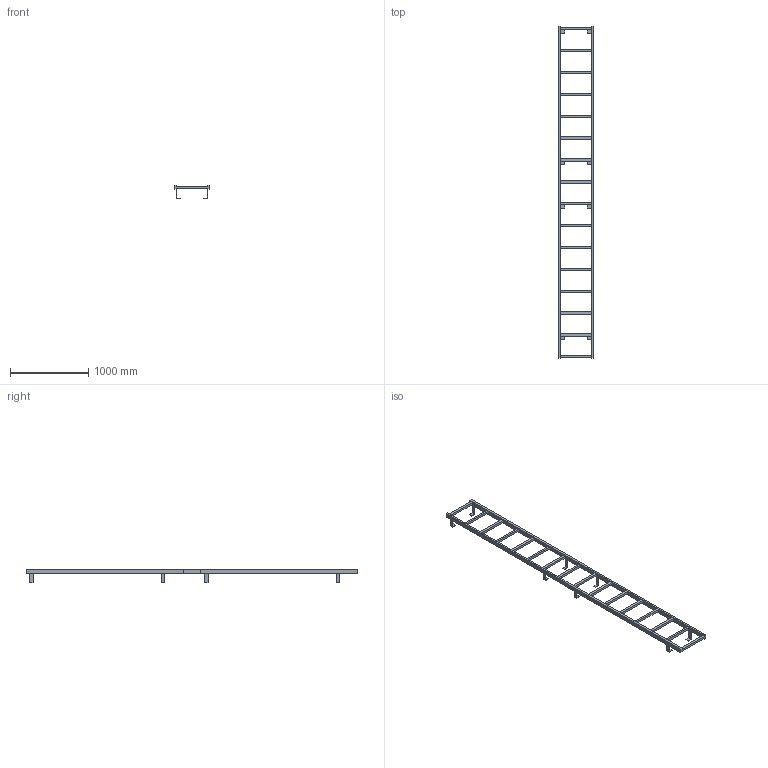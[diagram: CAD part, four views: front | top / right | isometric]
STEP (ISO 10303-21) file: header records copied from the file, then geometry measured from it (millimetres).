
FILE_DESCRIPTION((''),'2;1');
FILE_NAME('52311141','2024-10-17T13:33:03',('wep'),('HUBER SE'),'CREO PARAMETRIC BY PTC INC, 2022162','CREO PARAMETRIC BY PTC INC, 2022162','');
FILE_SCHEMA(('AUTOMOTIVE_DESIGN { 1 0 10303 214 1 1 1 1 }'));
Length unit declared in the file: millimetre
Products named in the file (1): 52311141
Bounding box: 450 x 4250 x 178.5 mm (x, y, z)
Volume: 18001850 mm3; surface area: 2269210.4 mm2
Topology: 4 solids, 4 shells, 160 faces, 456 edges, 296 vertices
Faces by surface type: plane 160
Entity records: 5687 total; most frequent: CARTESIAN_POINT 914, ORIENTED_EDGE 912, DIRECTION 776, VECTOR 456, LINE 456, EDGE_CURVE 456, VERTEX_POINT 296, EDGE_LOOP 180
